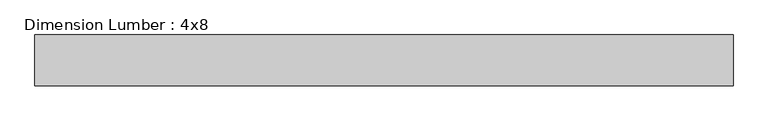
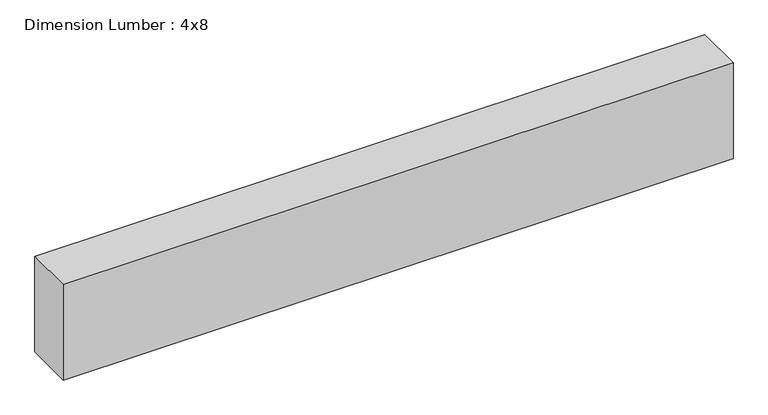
"""IFC4 building model written with IfcOpenShell, lengths in millimetres: beam geometry, Dimension Lumber : 4x8."""

from ifc_helpers import new_model, si_unit, frame, origin, place, context, project, spatial, polyline, outline, extrude, source, transform, mapped, element, save


def dimension_lumber_4x8_cd9e6e79(model_context):
    return source(origin(), model_context, "Body", "SweptSolid", [
        extrude(outline(polyline([(609.5999994, 44.45), (609.5999994, -44.45), (-609.5999994, -44.45), (-609.5999994, 44.45), (609.5999994, 44.45)])), frame((0.0, 0.0, -92.075), z_axis=(0.0, 0.0, 1.0), x_axis=(1.0, 0.0, 0.0)), (0.0, 0.0, 1.0), 184.15),
    ])


if __name__ == "__main__":
    model = new_model("IFC4")
    model_context = context("Model", 3, world=origin())
    ifc_project = project(units=[si_unit("LENGTHUNIT", "METRE", prefix="MILLI")], contexts=[model_context])
    site = spatial("IfcSite", under=ifc_project)
    building = spatial("IfcBuilding", under=site)
    placement = place(None, origin())
    dimension_lumber_4x8_shape = dimension_lumber_4x8_cd9e6e79(model_context)
    element("IfcBeam", 1, ObjectType="Dimension Lumber : 4x8", at=placement, inside=building, context=model_context, shape_type="MappedRepresentation", body=[
        mapped(dimension_lumber_4x8_shape, transform((0.0, 0.0, 0.0), x_axis=(1.0, 0.0, 0.0), y_axis=(0.0, 1.0, 0.0), z_axis=(0.0, 0.0, 1.0))),
    ])
    save(model, "model.ifc")
